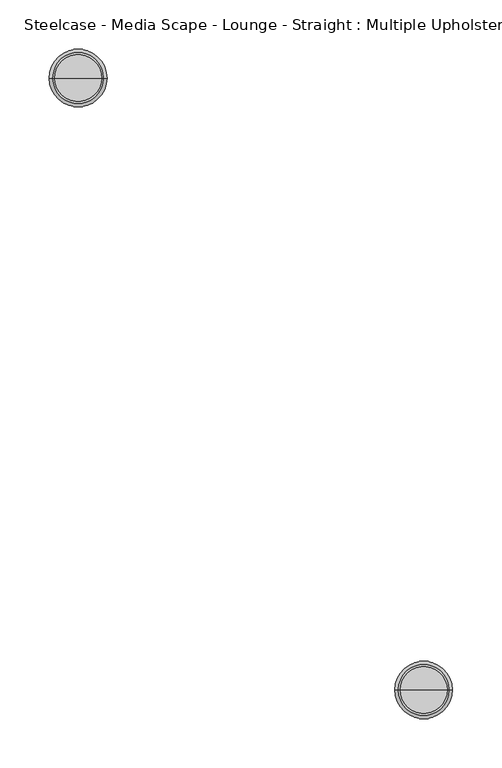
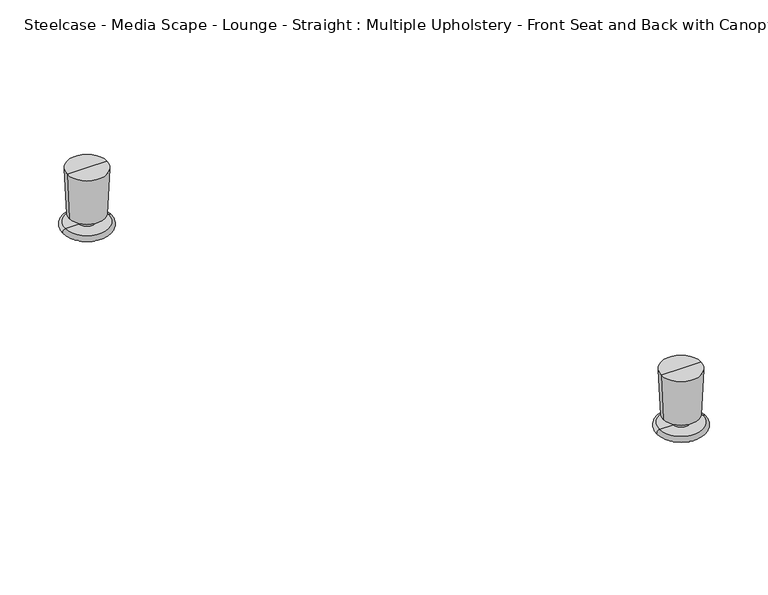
"""IFC4 building model written with IfcOpenShell, lengths in millimetres: furniture geometry, Steelcase - Media Scape - Lounge - Straight : Multiple Upholstery - Front Seat and Back with Canopy."""

import ifcopenshell
import ifcopenshell.guid

model = None  # the IFC model being written
_history = None  # IfcOwnerHistory: only IFC2X3 demands one
_inside = {}  # id of a spatial element -> (the spatial element, [elements in it])
_under = {}  # id of a project, library or spatial element -> (it, [spatial elements below it])
_declared = {}  # id of a project -> (the project, [libraries it declares])
_typed = {}  # id of a type object -> (the type object, [elements of that type])
_made_of = {}  # id of a material, layer set ... -> (it, [elements and type objects made of it])


def new_model(schema):
    """Start an empty IFC model of exactly this schema.

    Asked for "IFC4X3", IfcOpenShell would pick the latest addendum, in which some entities
    have other attributes; the version numbers below select the first issue.
    IFC2X3 requires an IfcOwnerHistory on every rooted entity: one is made here for all.
    """
    global model, _history
    if schema == "IFC4X3":
        model = ifcopenshell.file(schema_version=(4, 3, 0, 0))
    else:
        model = ifcopenshell.file(schema=schema)
    _inside.clear()
    _under.clear()
    _declared.clear()
    _typed.clear()
    _made_of.clear()
    _history = None
    if model.schema == "IFC2X3":
        org = make("IfcOrganization", Name="unknown")
        user = make(
            "IfcPersonAndOrganization",
            ThePerson=make("IfcPerson", FamilyName="unknown"),
            TheOrganization=org,
        )
        app = make(
            "IfcApplication",
            ApplicationDeveloper=org,
            Version="unknown",
            ApplicationFullName="unknown",
            ApplicationIdentifier="unknown",
        )
        _history = make(
            "IfcOwnerHistory",
            OwningUser=user,
            OwningApplication=app,
            ChangeAction="ADDED",
            CreationDate=0,
        )
    return model


def make(cls, **values):
    """One entity of the class cls with the attributes given. An attribute that is None is left unset."""
    return model.create_entity(
        cls, **{name: value for name, value in values.items() if value is not None}
    )


def rooted(cls, **values):
    """An entity with a GlobalId (a new one), such as an element, a storey or a relation."""
    return make(cls, GlobalId=ifcopenshell.guid.new(), OwnerHistory=_history, **values)


def si_unit(unit_type, name, prefix=None):
    """IfcSIUnit, for example si_unit("LENGTHUNIT", "METRE", prefix="MILLI")."""
    return make("IfcSIUnit", UnitType=unit_type, Prefix=prefix, Name=name)


def assignment(units):
    """IfcUnitAssignment: the units of a project."""
    return None if units is None else make("IfcUnitAssignment", Units=units)


def point(xyz):
    """IfcCartesianPoint."""
    return None if xyz is None else make("IfcCartesianPoint", Coordinates=xyz)


def direction(xyz):
    """IfcDirection."""
    return None if xyz is None else make("IfcDirection", DirectionRatios=xyz)


def frame(location, z_axis=None, x_axis=None):
    """IfcAxis2Placement3D, a coordinate frame: its origin and axes. An axis left out is left unset."""
    return make(
        "IfcAxis2Placement3D",
        Location=point(location),
        Axis=direction(z_axis),
        RefDirection=direction(x_axis),
    )


def origin():
    """The frame at (0, 0, 0) with its axes left unset."""
    return frame((0.0, 0.0, 0.0))


def place(relative_to, where):
    """IfcLocalPlacement: puts the frame where relative to a parent placement (None: the world)."""
    return make(
        "IfcLocalPlacement", PlacementRelTo=relative_to, RelativePlacement=where
    )


def context(
    kind, dimensions, precision=None, world=None, true_north=None, identifier=None
):
    """IfcGeometricRepresentationContext, for example the 3D "Model" context."""
    return make(
        "IfcGeometricRepresentationContext",
        ContextIdentifier=identifier,
        ContextType=kind,
        CoordinateSpaceDimension=dimensions,
        Precision=precision,
        WorldCoordinateSystem=world,
        TrueNorth=true_north,
    )


def project(units=None, contexts=None):
    """IfcProject with its units and contexts."""
    return rooted(
        "IfcProject",
        Name="project",
        RepresentationContexts=contexts,
        UnitsInContext=assignment(units),
    )


def spatial(cls, under=None, at=None, **own):
    """A site, building, storey or space (cls), placed at a placement, below another one or the project."""
    s = rooted(cls, ObjectPlacement=at, **own)
    if under is not None:
        _under.setdefault(under.id(), (under, []))[1].append(s)
    return s


def polyline(points):
    """IfcPolyline through the points."""
    return make("IfcPolyline", Points=[point(p) for p in points])


def circle_curve(where, radius):
    """IfcCircle in the frame where."""
    return make("IfcCircle", Position=where, Radius=radius)


def ellipse_curve(where, semi_axis1, semi_axis2):
    """IfcEllipse in the frame where."""
    return make(
        "IfcEllipse", Position=where, SemiAxis1=semi_axis1, SemiAxis2=semi_axis2
    )


def trimmed(basis, trim1, trim2, sense, master):
    """IfcTrimmedCurve: the piece of a basis curve between two trims."""
    return make(
        "IfcTrimmedCurve",
        BasisCurve=basis,
        Trim1=trim1,
        Trim2=trim2,
        SenseAgreement=sense,
        MasterRepresentation=master,
    )


def shape(context_of_items, identifier, shape_type, items):
    """IfcShapeRepresentation: the items that make up one representation, for example the "Body"."""
    return make(
        "IfcShapeRepresentation",
        ContextOfItems=context_of_items,
        RepresentationIdentifier=identifier,
        RepresentationType=shape_type,
        Items=items,
    )


def source(mapping_origin, context_of_items, identifier, shape_type, items):
    """IfcRepresentationMap: a shape defined once, which mapped items show again and again."""
    return make(
        "IfcRepresentationMap",
        MappingOrigin=mapping_origin,
        MappedRepresentation=shape(context_of_items, identifier, shape_type, items),
    )


def transform(
    local_origin,
    x_axis=None,
    y_axis=None,
    z_axis=None,
    scale=None,
    scale2=None,
    scale3=None,
    uniform=True,
):
    """IfcCartesianTransformationOperator3D, or its non-uniform kind. x_axis, y_axis, z_axis: its Axis1, 2, 3."""
    if uniform:
        return make(
            "IfcCartesianTransformationOperator3D",
            Axis1=direction(x_axis),
            Axis2=direction(y_axis),
            LocalOrigin=point(local_origin),
            Scale=scale,
            Axis3=direction(z_axis),
        )
    return make(
        "IfcCartesianTransformationOperator3DnonUniform",
        Axis1=direction(x_axis),
        Axis2=direction(y_axis),
        LocalOrigin=point(local_origin),
        Scale=scale,
        Axis3=direction(z_axis),
        Scale2=scale2,
        Scale3=scale3,
    )


def mapped(mapping_source, mapping_target):
    """IfcMappedItem: shows the shape of a source again, moved by a transform."""
    return make(
        "IfcMappedItem", MappingSource=mapping_source, MappingTarget=mapping_target
    )


def made_of(thing, what):
    """Note that an element or type object is made of a material, layer set ...; save() writes the relation."""
    if what is not None:
        _made_of.setdefault(what.id(), (what, []))[1].append(thing)
    return thing


def element(
    cls,
    number,
    at=None,
    inside=None,
    cuts=None,
    type_object=None,
    material=None,
    context=None,
    identifier="Body",
    shape_type=None,
    held_by="IfcProductDefinitionShape",
    body=None,
    shapes=None,
    **own,
):
    """One element of the class cls, such as IfcWall. Its Tag is "e" and its number.

    at: its placement. inside: the storey or other place that contains it. cuts: it is an
    opening in that element (IfcRelVoidsElement). A single representation is given by context,
    identifier, shape_type and body (its items); several are given by shapes. held_by: the class
    of the entity that holds the representations. save() writes the other relations.
    """
    e = rooted(cls, Tag="e%d" % number, ObjectPlacement=at, **own)
    if body is not None:
        shapes = [shape(context, identifier, shape_type, body)]
    if shapes is not None:
        e.Representation = make(held_by, Representations=shapes)
    if inside is not None:
        _inside.setdefault(inside.id(), (inside, []))[1].append(e)
    if cuts is not None:
        rooted(
            "IfcRelVoidsElement", RelatingBuildingElement=cuts, RelatedOpeningElement=e
        )
    if type_object is not None:
        _typed.setdefault(type_object.id(), (type_object, []))[1].append(e)
    return made_of(e, material)


def aggregate(whole, parts):
    """IfcRelAggregates: a whole, such as a stair, and the parts it consists of."""
    return rooted("IfcRelAggregates", RelatingObject=whole, RelatedObjects=parts)


def save(model, path):
    """Write the relations noted so far, then the file.

    IfcRelAggregates (storeys below a building ...), IfcRelContainedInSpatialStructure (elements
    in a storey), IfcRelDefinesByType, IfcRelAssociatesMaterial and IfcRelDeclares: one each for
    every whole, place, type object, material and project.
    """
    for whole, parts in _under.values():
        aggregate(whole, parts)
    for where, things in _inside.values():
        rooted(
            "IfcRelContainedInSpatialStructure",
            RelatedElements=things,
            RelatingStructure=where,
        )
    for kind, things in _typed.values():
        rooted("IfcRelDefinesByType", RelatedObjects=things, RelatingType=kind)
    for what, things in _made_of.values():
        rooted("IfcRelAssociatesMaterial", RelatedObjects=things, RelatingMaterial=what)
    for by, libraries in _declared.values():
        rooted("IfcRelDeclares", RelatingContext=by, RelatedDefinitions=libraries)
    model.write(path)


def plane_surface(at):
    """IfcPlane: the flat surface through the origin of the frame at, square to its z axis."""
    return make("IfcPlane", Position=at)


def cylinder_surface(at, radius):
    """IfcCylindricalSurface: all points at the distance radius from the z axis of the frame at."""
    return make("IfcCylindricalSurface", Position=at, Radius=radius)


def revolved_surface(curve, axis_point, axis_direction):
    """IfcSurfaceOfRevolution: the curve turned about the line through axis_point along axis_direction."""
    return make(
        "IfcSurfaceOfRevolution",
        SweptCurve=make("IfcArbitraryOpenProfileDef", ProfileType="CURVE", Curve=curve),
        AxisPosition=make("IfcAxis1Placement", Location=point(axis_point), Axis=direction(axis_direction)),
    )


def advanced_brep(points, edges, surfaces, faces):
    """IfcAdvancedBrep: a solid bounded by faces that lie on surfaces and meet in shared edges.

    An edge is (start, end): straight between two places in points (the first is 0);
    or (start, end, curve); or (start, end, curve, False) where it runs against its curve.
    A face is (place in surfaces, loops), or (place, loops, False) where it looks against
    its surface's normal. A loop lists edges by number (the first is 1), with a minus sign
    where the edge is run from its end to its start. The first loop is the outer one.
    """
    corners = [point(p) for p in points]
    vertices = [make("IfcVertexPoint", VertexGeometry=c) for c in corners]
    made = []
    for start, end, *more in edges:
        made.append(
            make(
                "IfcEdgeCurve",
                EdgeStart=vertices[start],
                EdgeEnd=vertices[end],
                EdgeGeometry=more[0] if more else make("IfcPolyline", Points=[corners[start], corners[end]]),
                SameSense=more[1] if len(more) > 1 else True,
            )
        )
    hull = []
    for where, loops, *sense in faces:
        bounds = []
        for j, loop in enumerate(loops):
            ring = [make("IfcOrientedEdge", EdgeElement=made[abs(k) - 1], Orientation=k > 0) for k in loop]
            bounds.append(
                make(
                    "IfcFaceOuterBound" if j == 0 else "IfcFaceBound",
                    Bound=make("IfcEdgeLoop", EdgeList=ring),
                    Orientation=True,
                )
            )
        hull.append(make("IfcAdvancedFace", Bounds=bounds, FaceSurface=surfaces[where], SameSense=sense[0] if sense else True))
    return make("IfcAdvancedBrep", Outer=make("IfcClosedShell", CfsFaces=hull))


def steelcase_media_scape_lounge_straight_multiple_upholstery_2f746f6f(model_context):
    return source(origin(), model_context, "Body", "AdvancedBrep", [
        advanced_brep(
        [(-3.0976561, 106.8143681, 74.1561731), (20.6892641, 106.8143681, 74.1561731), (-26.8845762, 106.8143681, 74.1561731), (-29.1512983, 106.8143681, 0.0), (22.9559862, 106.8143681, 0.0), (-3.0976561, 106.8143681, 0.0), (-29.1512983, 106.8143681, 6.3788302), (22.9559862, 106.8143681, 6.3788302), (-12.6226561, 106.8143681, 6.3788302), (6.4273439, 106.8143681, 6.3788302), (-12.6226561, 106.8143681, 17.057519), (6.4273439, 106.8143681, 17.057519), (-24.0527723, 106.8143681, 17.057519), (17.8574602, 106.8143681, 17.057519)],
        [
            (0, 1),
            (1, 2, circle_curve(frame((-3.0976561, 106.8143681, 74.1561731), z_axis=(0.0, 0.0, 1.0), x_axis=(1.0, 0.0, 0.0)), 23.7869202)),
            (2, 0),
            (2, 1, circle_curve(frame((-3.0976561, 106.8143681, 74.1561731), z_axis=(0.0, 0.0, 1.0), x_axis=(1.0, 0.0, 0.0)), 23.7869202)),
            (3, 4, circle_curve(frame((-3.0976561, 106.8143681, 0.0), z_axis=(0.0, 0.0, -1.0), x_axis=(1.0, 0.0, 0.0)), 26.0536423)),
            (4, 5),
            (5, 3),
            (4, 3, circle_curve(frame((-3.0976561, 106.8143681, 0.0), z_axis=(0.0, 0.0, -1.0), x_axis=(1.0, 0.0, 0.0)), 26.0536423)),
            (3, 6, circle_curve(frame((-29.1512983, 106.8143681, 3.1894151), z_axis=(0.0, 1.0, 0.0), x_axis=(-1.0, 0.0, 0.0)), 3.1894151)),
            (6, 7, circle_curve(frame((-3.0976561, 106.8143681, 6.3788302), z_axis=(0.0, 0.0, -1.0), x_axis=(1.0, 0.0, 0.0)), 26.0536423)),
            (7, 4, circle_curve(frame((22.9559862, 106.8143681, 3.1894151), z_axis=(0.0, 1.0, 0.0), x_axis=(1.0, 0.0, 0.0)), 3.1894151)),
            (7, 6, circle_curve(frame((-3.0976561, 106.8143681, 6.3788302), z_axis=(0.0, 0.0, -1.0), x_axis=(1.0, 0.0, 0.0)), 26.0536423)),
            (6, 8),
            (8, 9, circle_curve(frame((-3.0976561, 106.8143681, 6.3788302), z_axis=(0.0, 0.0, -1.0), x_axis=(1.0, 0.0, 0.0)), 9.525)),
            (9, 7),
            (9, 8, circle_curve(frame((-3.0976561, 106.8143681, 6.3788302), z_axis=(0.0, 0.0, -1.0), x_axis=(1.0, 0.0, 0.0)), 9.525)),
            (8, 10),
            (10, 11, circle_curve(frame((-3.0976561, 106.8143681, 17.057519), z_axis=(0.0, 0.0, -1.0), x_axis=(1.0, 0.0, 0.0)), 9.525)),
            (11, 9),
            (11, 10, circle_curve(frame((-3.0976561, 106.8143681, 17.057519), z_axis=(0.0, 0.0, -1.0), x_axis=(1.0, 0.0, 0.0)), 9.525)),
            (10, 12),
            (12, 13, circle_curve(frame((-3.0976561, 106.8143681, 17.057519), z_axis=(0.0, 0.0, -1.0), x_axis=(1.0, 0.0, 0.0)), 20.9551163)),
            (13, 11),
            (13, 12, circle_curve(frame((-3.0976561, 106.8143681, 17.057519), z_axis=(0.0, 0.0, -1.0), x_axis=(1.0, 0.0, 0.0)), 20.9551163)),
            (1, 13),
            (12, 2),
        ],
        [
            plane_surface(frame((-3.0976561, 106.8143681, 74.1561731), z_axis=(0.0, 0.0, 1.0), x_axis=(1.0, 0.0, 0.0))),
            plane_surface(frame((-3.0976561, 106.8143681, 0.0), z_axis=(0.0, 0.0, -1.0), x_axis=(1.0, 0.0, 0.0))),
            revolved_surface(trimmed(ellipse_curve(frame((22.9559862, 106.8143681, 3.1894151), z_axis=(0.0, -1.0, 0.0), x_axis=(1.0, 0.0, 0.0)), 3.1894151, 3.1894151), [point((22.9559862, 106.8143681, 0.0))], [point((22.9559862, 106.8143681, 6.3788302))], True, "CARTESIAN"), (-3.0976561, 106.8143681, 61.4561731), (0.0, 0.0, 1.0)),
            plane_surface(frame((-3.0976561, 106.8143681, 6.3788302), z_axis=(0.0, 0.0, 1.0), x_axis=(1.0, 0.0, 0.0))),
            cylinder_surface(frame((-3.0976561, 106.8143681, 61.4561731), z_axis=(0.0, 0.0, 1.0), x_axis=(1.0, 0.0, 0.0)), 9.525),
            plane_surface(frame((-3.0976561, 106.8143681, 17.057519), z_axis=(0.0, 0.0, -1.0), x_axis=(1.0, 0.0, 0.0))),
            revolved_surface(polyline([(17.8574602, 106.8143681, 17.057519), (20.6892641, 106.8143681, 74.1561731)]), (-3.0976561, 106.8143681, 61.4561731), (0.0, 0.0, 1.0)),
        ],
        [
            (0, [[1, 2, 3]]),
            (0, [[-1, -3, 4]]),
            (1, [[5, 6, 7]]),
            (1, [[-6, 8, -7]]),
            (2, [[-5, 9, 10, 11]]),
            (2, [[-8, -11, 12, -9]]),
            (3, [[-10, 13, 14, 15]]),
            (3, [[-12, -15, 16, -13]]),
            (4, [[-14, 17, 18, 19]]),
            (4, [[-16, -19, 20, -17]]),
            (5, [[-18, 21, 22, 23]]),
            (5, [[-20, -23, 24, -21]]),
            (6, [[-2, 25, -22, 26]]),
            (6, [[-4, -26, -24, -25]]),
        ],
    ),
        advanced_brep(
        [(-353.6250975, 727.0057274, 74.1561731), (-329.8381773, 727.0057274, 74.1561731), (-377.4120176, 727.0057274, 74.1561731), (-379.6787397, 727.0057274, 0.0), (-327.5714552, 727.0057274, 0.0), (-353.6250975, 727.0057274, 0.0), (-379.6787397, 727.0057274, 6.3788302), (-327.5714552, 727.0057274, 6.3788302), (-363.1500975, 727.0057274, 6.3788302), (-344.1000975, 727.0057274, 6.3788302), (-363.1500975, 727.0057274, 17.057519), (-344.1000975, 727.0057274, 17.057519), (-374.5802137, 727.0057274, 17.057519), (-332.6699812, 727.0057274, 17.057519)],
        [
            (0, 1),
            (1, 2, circle_curve(frame((-353.6250975, 727.0057274, 74.1561731), z_axis=(0.0, 0.0, 1.0), x_axis=(1.0, 0.0, 0.0)), 23.7869202)),
            (2, 0),
            (2, 1, circle_curve(frame((-353.6250975, 727.0057274, 74.1561731), z_axis=(0.0, 0.0, 1.0), x_axis=(1.0, 0.0, 0.0)), 23.7869202)),
            (3, 4, circle_curve(frame((-353.6250975, 727.0057274, 0.0), z_axis=(0.0, 0.0, -1.0), x_axis=(1.0, 0.0, 0.0)), 26.0536423)),
            (4, 5),
            (5, 3),
            (4, 3, circle_curve(frame((-353.6250975, 727.0057274, 0.0), z_axis=(0.0, 0.0, -1.0), x_axis=(1.0, 0.0, 0.0)), 26.0536423)),
            (3, 6, circle_curve(frame((-379.6787397, 727.0057274, 3.1894151), z_axis=(0.0, 1.0, 0.0), x_axis=(-1.0, 0.0, 0.0)), 3.1894151)),
            (6, 7, circle_curve(frame((-353.6250975, 727.0057274, 6.3788302), z_axis=(0.0, 0.0, -1.0), x_axis=(1.0, 0.0, 0.0)), 26.0536423)),
            (7, 4, circle_curve(frame((-327.5714552, 727.0057274, 3.1894151), z_axis=(0.0, 1.0, 0.0), x_axis=(1.0, 0.0, 0.0)), 3.1894151)),
            (7, 6, circle_curve(frame((-353.6250975, 727.0057274, 6.3788302), z_axis=(0.0, 0.0, -1.0), x_axis=(1.0, 0.0, 0.0)), 26.0536423)),
            (6, 8),
            (8, 9, circle_curve(frame((-353.6250975, 727.0057274, 6.3788302), z_axis=(0.0, 0.0, -1.0), x_axis=(1.0, 0.0, 0.0)), 9.525)),
            (9, 7),
            (9, 8, circle_curve(frame((-353.6250975, 727.0057274, 6.3788302), z_axis=(0.0, 0.0, -1.0), x_axis=(1.0, 0.0, 0.0)), 9.525)),
            (8, 10),
            (10, 11, circle_curve(frame((-353.6250975, 727.0057274, 17.057519), z_axis=(0.0, 0.0, -1.0), x_axis=(1.0, 0.0, 0.0)), 9.525)),
            (11, 9),
            (11, 10, circle_curve(frame((-353.6250975, 727.0057274, 17.057519), z_axis=(0.0, 0.0, -1.0), x_axis=(1.0, 0.0, 0.0)), 9.525)),
            (10, 12),
            (12, 13, circle_curve(frame((-353.6250975, 727.0057274, 17.057519), z_axis=(0.0, 0.0, -1.0), x_axis=(1.0, 0.0, 0.0)), 20.9551163)),
            (13, 11),
            (13, 12, circle_curve(frame((-353.6250975, 727.0057274, 17.057519), z_axis=(0.0, 0.0, -1.0), x_axis=(1.0, 0.0, 0.0)), 20.9551163)),
            (1, 13),
            (12, 2),
        ],
        [
            plane_surface(frame((-353.6250975, 727.0057274, 74.1561731), z_axis=(0.0, 0.0, 1.0), x_axis=(1.0, 0.0, 0.0))),
            plane_surface(frame((-353.6250975, 727.0057274, 0.0), z_axis=(0.0, 0.0, -1.0), x_axis=(1.0, 0.0, 0.0))),
            revolved_surface(trimmed(ellipse_curve(frame((-327.5714552, 727.0057274, 3.1894151), z_axis=(0.0, -1.0, 0.0), x_axis=(1.0, 0.0, 0.0)), 3.1894151, 3.1894151), [point((-327.5714552, 727.0057274, 0.0))], [point((-327.5714552, 727.0057274, 6.3788302))], True, "CARTESIAN"), (-353.6250975, 727.0057274, 61.4561731), (0.0, 0.0, 1.0)),
            plane_surface(frame((-353.6250975, 727.0057274, 6.3788302), z_axis=(0.0, 0.0, 1.0), x_axis=(1.0, 0.0, 0.0))),
            cylinder_surface(frame((-353.6250975, 727.0057274, 61.4561731), z_axis=(0.0, 0.0, 1.0), x_axis=(1.0, 0.0, 0.0)), 9.525),
            plane_surface(frame((-353.6250975, 727.0057274, 17.057519), z_axis=(0.0, 0.0, -1.0), x_axis=(1.0, 0.0, 0.0))),
            revolved_surface(polyline([(-332.6699812, 727.0057274, 17.057519), (-329.8381773, 727.0057274, 74.1561731)]), (-353.6250975, 727.0057274, 61.4561731), (0.0, 0.0, 1.0)),
        ],
        [
            (0, [[1, 2, 3]]),
            (0, [[-1, -3, 4]]),
            (1, [[5, 6, 7]]),
            (1, [[-6, 8, -7]]),
            (2, [[-5, 9, 10, 11]]),
            (2, [[-8, -11, 12, -9]]),
            (3, [[-10, 13, 14, 15]]),
            (3, [[-12, -15, 16, -13]]),
            (4, [[-14, 17, 18, 19]]),
            (4, [[-16, -19, 20, -17]]),
            (5, [[-18, 21, 22, 23]]),
            (5, [[-20, -23, 24, -21]]),
            (6, [[-2, 25, -22, 26]]),
            (6, [[-4, -26, -24, -25]]),
        ],
    ),
    ])


if __name__ == "__main__":
    model = new_model("IFC4")
    model_context = context("Model", 3, world=origin())
    ifc_project = project(units=[si_unit("LENGTHUNIT", "METRE", prefix="MILLI")], contexts=[model_context])
    site = spatial("IfcSite", under=ifc_project)
    building = spatial("IfcBuilding", under=site)
    placement = place(None, origin())
    steelcase_media_scape_lounge_straight_multiple_upholstery_shape = steelcase_media_scape_lounge_straight_multiple_upholstery_2f746f6f(model_context)
    element("IfcFurniture", 1, ObjectType="Steelcase - Media Scape - Lounge - Straight : Multiple Upholstery - Front Seat and Back with Canopy", at=placement, inside=building, context=model_context, shape_type="MappedRepresentation", body=[
        mapped(steelcase_media_scape_lounge_straight_multiple_upholstery_shape, transform((0.0, 0.0, 0.0), x_axis=(1.0, 0.0, 0.0), y_axis=(0.0, 1.0, 0.0), z_axis=(0.0, 0.0, 1.0))),
    ])
    save(model, "model.ifc")
